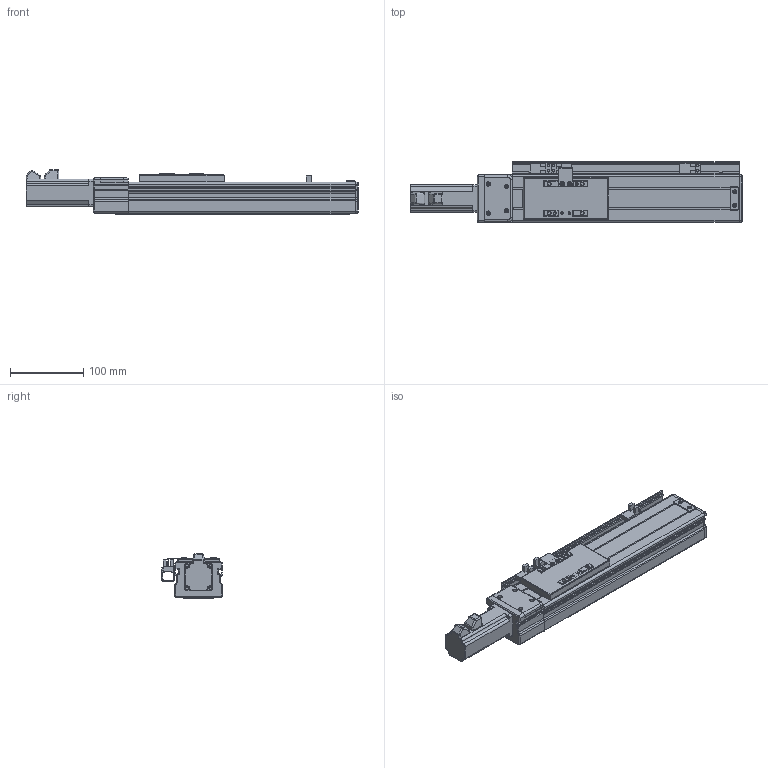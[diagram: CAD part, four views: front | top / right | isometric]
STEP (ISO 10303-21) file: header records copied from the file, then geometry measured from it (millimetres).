
FILE_DESCRIPTION (( 'STEP AP203' ), '1' );
FILE_NAME ('VT6-L10-C-S160-BC-P10-C4.STEP', '2015-10-26T04:09:29', ( '' ), ( '' ), 'SwSTEP 2.0', 'SolidWorks 2013', '' );
FILE_SCHEMA (( 'CONFIG_CONTROL_DESIGN' ));
Length unit declared in the file: millimetre
Products named in the file (15): T6-BCヶ傷裔揤啣; T6-BCヶ傷裔; 侂狟100W MSMD012G1U; ET6-BC佪裝_160; VT6-L10-C-S160-BC-P10-C4; ET6-BC耜啣_160; T6-賑雄殤; ET6-BC滅鳥湍_160; ET6-BC癹弇羲壽羞_160; T6-裔啣; T6-覜茼え; T6-綴傷裔; EE-XS674; ET6-BC絳寢_俴最160; T6-揤輸
Assembly tree (17 placements, depth 2):
  VT6-L10-C-S160-BC-P10-C4
    ET6-BC耜啣_160  x2
    ET6-BC癹弇羲壽羞_160
    T6-賑雄殤
    T6-裔啣
    T6-揤輸
    T6-覜茼え
    T6-綴傷裔
    EE-XS674  x3
    ET6-BC絳寢_俴最160
    ET6-BC滅鳥湍_160
    T6-BCヶ傷裔揤啣
    T6-BCヶ傷裔
    侂狟100W MSMD012G1U
    ET6-BC佪裝_160
Bounding box: 454 x 83 x 61 mm (x, y, z)
Volume: 605389 mm3; surface area: 297803.5 mm2
Topology: 17 solids, 17 shells, 860 faces, 2265 edges, 1428 vertices
Faces by surface type: cylinder 380, plane 378, cone 56, torus 28, sphere 18
Entity records: 26218 total; most frequent: CARTESIAN_POINT 4561, DIRECTION 4353, ORIENTED_EDGE 4056, EDGE_CURVE 2028, AXIS2_PLACEMENT_3D 1572, VERTEX_POINT 1288, LINE 1209, VECTOR 1209
